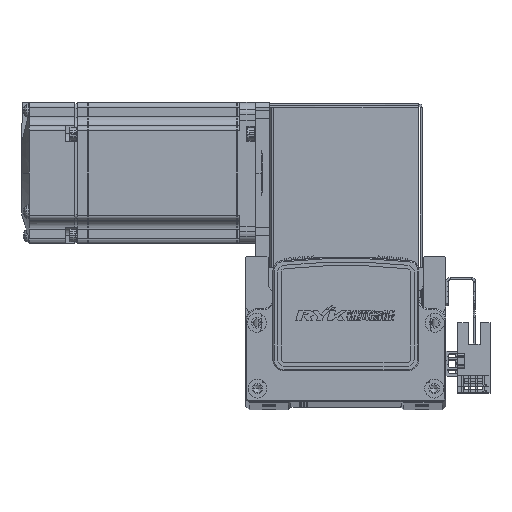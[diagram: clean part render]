
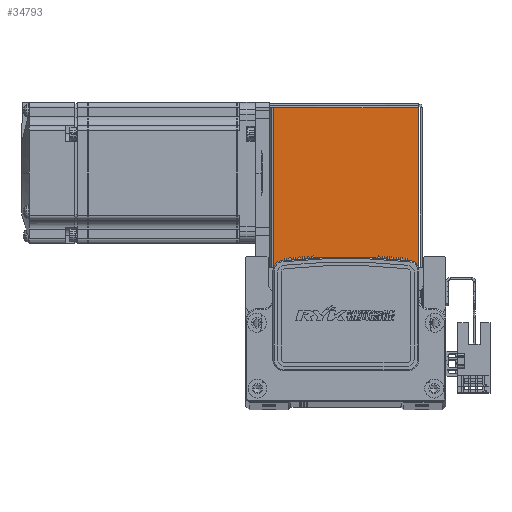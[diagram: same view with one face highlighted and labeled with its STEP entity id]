
A CAD part, top view. The second image highlights one B-rep face of the part: STEP entity #34793.
In plain terms, the highlighted planar face has unit normal (0, 0, 1).
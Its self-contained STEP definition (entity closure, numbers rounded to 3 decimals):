
#4624 = FACE_OUTER_BOUND ( 'NONE', #77475, .T. ) ;
#6430 = CARTESIAN_POINT ( 'NONE',  ( 30.763, 0.737, 35. ) ) ;
#6466 = CARTESIAN_POINT ( 'NONE',  ( -30.793, 68.5, 35. ) ) ;
#19186 = DIRECTION ( 'NONE',  ( -1., 0., 0. ) ) ;
#19191 = DIRECTION ( 'NONE',  ( 0., 0., -1. ) ) ;
#19196 = CARTESIAN_POINT ( 'NONE',  ( 0., 0., 35. ) ) ;
#19201 = PLANE ( 'NONE',  #39659 ) ;
#32590 = CARTESIAN_POINT ( 'NONE',  ( 30.763, 68.5, 35. ) ) ;
#32612 = CARTESIAN_POINT ( 'NONE',  ( -30.793, 0.737, 35. ) ) ;
#32692 = CARTESIAN_POINT ( 'NONE',  ( -30.793, 0., 35. ) ) ;
#32846 = DIRECTION ( 'NONE',  ( 0., 1., 0. ) ) ;
#33297 = CARTESIAN_POINT ( 'NONE',  ( 30.763, 0.737, 35. ) ) ;
#33299 = DIRECTION ( 'NONE',  ( 0., 1., 0. ) ) ;
#33403 = CARTESIAN_POINT ( 'NONE',  ( 0., 68.5, 35. ) ) ;
#33405 = DIRECTION ( 'NONE',  ( -1., 0., 0. ) ) ;
#33509 = CARTESIAN_POINT ( 'NONE',  ( -32.5, 0.737, 35. ) ) ;
#33556 = DIRECTION ( 'NONE',  ( -1., 0., 0. ) ) ;
#34793 = ADVANCED_FACE ( 'NONE', ( #4624 ), #19201, .F. ) ;
#38460 = LINE ( 'NONE', #32692, #38475 ) ;
#38475 = VECTOR ( 'NONE', #32846, 1000. ) ;
#38555 = VECTOR ( 'NONE', #33299, 1000. ) ;
#38561 = LINE ( 'NONE', #33297, #38555 ) ;
#38672 = LINE ( 'NONE', #33509, #38680 ) ;
#38674 = LINE ( 'NONE', #33403, #38698 ) ;
#38680 = VECTOR ( 'NONE', #33556, 1000. ) ;
#38698 = VECTOR ( 'NONE', #33405, 1000. ) ;
#39659 = AXIS2_PLACEMENT_3D ( 'NONE', #19196, #19191, #19186 ) ;
#50270 = EDGE_CURVE ( 'NONE', #67613, #67514, #38460, .T. ) ;
#50331 = EDGE_CURVE ( 'NONE', #67511, #67571, #38561, .T. ) ;
#50357 = EDGE_CURVE ( 'NONE', #67571, #67514, #38674, .T. ) ;
#50381 = EDGE_CURVE ( 'NONE', #67511, #67613, #38672, .T. ) ;
#67511 = VERTEX_POINT ( 'NONE', #6430 ) ;
#67514 = VERTEX_POINT ( 'NONE', #6466 ) ;
#67571 = VERTEX_POINT ( 'NONE', #32590 ) ;
#67613 = VERTEX_POINT ( 'NONE', #32612 ) ;
#77299 = ORIENTED_EDGE ( 'NONE', *, *, #50357, .T. ) ;
#77304 = ORIENTED_EDGE ( 'NONE', *, *, #50331, .T. ) ;
#77331 = ORIENTED_EDGE ( 'NONE', *, *, #50270, .F. ) ;
#77349 = ORIENTED_EDGE ( 'NONE', *, *, #50381, .F. ) ;
#77475 = EDGE_LOOP ( 'NONE', ( #77304, #77299, #77331, #77349 ) ) ;
